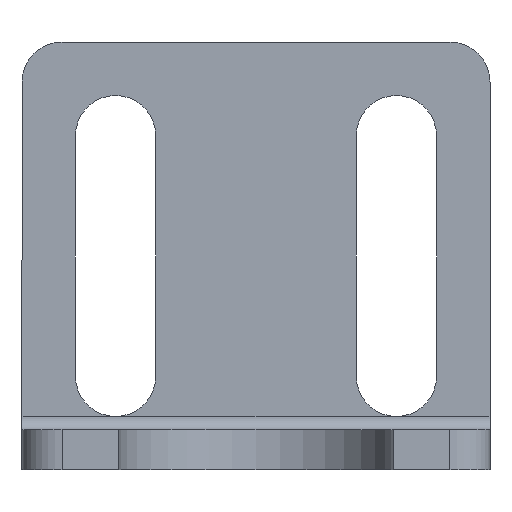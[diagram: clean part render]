
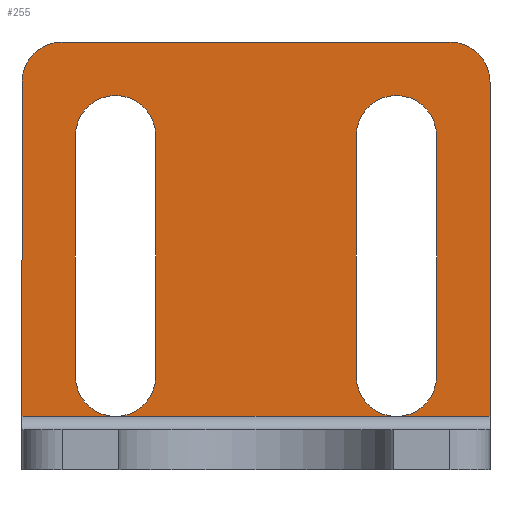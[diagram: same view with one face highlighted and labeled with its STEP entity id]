
A CAD part, front view. The second image highlights one B-rep face of the part: STEP entity #255.
In plain terms, the highlighted planar face has unit normal (0, -1, 0).
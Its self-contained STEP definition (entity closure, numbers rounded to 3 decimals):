
#73=CARTESIAN_POINT('',(14.5,-3.0,32.0));
#74=VERTEX_POINT('',#73);
#75=CARTESIAN_POINT('',(17.5,-3.0,29.0));
#76=VERTEX_POINT('',#75);
#77=CARTESIAN_POINT('',(14.5,-3.0,29.0));
#78=DIRECTION('',(0.0,1.0,0.0));
#79=DIRECTION('',(0.707,0.0,0.707));
#80=AXIS2_PLACEMENT_3D('',#77,#78,#79);
#81=CIRCLE('',#80,3.0);
#82=EDGE_CURVE('',#74,#76,#81,.T.);
#110=CARTESIAN_POINT('',(0.,-3.0,16.0));
#111=DIRECTION('',(0.0,1.0,0.0));
#112=DIRECTION('',(0.0,0.0,1.0));
#113=AXIS2_PLACEMENT_3D('',#110,#111,#112);
#114=PLANE('',#113);
#115=ORIENTED_EDGE('',*,*,#82,.F.);
#116=CARTESIAN_POINT('',(-14.5,-3.0,32.));
#117=VERTEX_POINT('',#116);
#118=CARTESIAN_POINT('',(-14.5,-3.0,32.));
#119=DIRECTION('',(1.0,0.0,0.0));
#120=VECTOR('',#119,29.);
#121=LINE('',#118,#120);
#122=EDGE_CURVE('',#117,#74,#121,.T.);
#123=ORIENTED_EDGE('',*,*,#122,.F.);
#124=CARTESIAN_POINT('',(-17.5,-3.0,29.));
#125=VERTEX_POINT('',#124);
#126=CARTESIAN_POINT('',(-14.5,-3.,29.));
#127=DIRECTION('',(0.0,1.0,0.0));
#128=DIRECTION('',(-0.707,0.0,0.707));
#129=AXIS2_PLACEMENT_3D('',#126,#127,#128);
#130=CIRCLE('',#129,3.0);
#131=EDGE_CURVE('',#125,#117,#130,.T.);
#132=ORIENTED_EDGE('',*,*,#131,.F.);
#133=CARTESIAN_POINT('',(-17.5,-3.0,4.0));
#134=VERTEX_POINT('',#133);
#135=CARTESIAN_POINT('',(-17.5,-3.0,4.0));
#136=DIRECTION('',(0.0,0.0,1.0));
#137=VECTOR('',#136,25.);
#138=LINE('',#135,#137);
#139=EDGE_CURVE('',#134,#125,#138,.T.);
#140=ORIENTED_EDGE('',*,*,#139,.F.);
#141=CARTESIAN_POINT('',(-10.5,-3.0,4.0));
#142=VERTEX_POINT('',#141);
#143=CARTESIAN_POINT('',(-10.5,-3.0,4.0));
#144=DIRECTION('',(-1.0,0.0,0.0));
#145=VECTOR('',#144,7.);
#146=LINE('',#143,#145);
#147=EDGE_CURVE('',#142,#134,#146,.T.);
#148=ORIENTED_EDGE('',*,*,#147,.F.);
#149=CARTESIAN_POINT('',(-13.5,-3.0,7.));
#150=VERTEX_POINT('',#149);
#151=CARTESIAN_POINT('',(-10.5,-3.0,7.));
#152=DIRECTION('',(0.0,1.0,0.0));
#153=DIRECTION('',(1.0,0.0,0.0));
#154=AXIS2_PLACEMENT_3D('',#151,#152,#153);
#155=CIRCLE('',#154,3.);
#156=EDGE_CURVE('',#142,#150,#155,.T.);
#157=ORIENTED_EDGE('',*,*,#156,.T.);
#158=CARTESIAN_POINT('',(-13.5,-3.0,25.));
#159=VERTEX_POINT('',#158);
#160=CARTESIAN_POINT('',(-13.5,-3.0,7.));
#161=DIRECTION('',(0.0,0.0,1.0));
#162=VECTOR('',#161,18.);
#163=LINE('',#160,#162);
#164=EDGE_CURVE('',#150,#159,#163,.T.);
#165=ORIENTED_EDGE('',*,*,#164,.T.);
#166=CARTESIAN_POINT('',(-7.5,-3.0,25.));
#167=VERTEX_POINT('',#166);
#168=CARTESIAN_POINT('',(-10.5,-3.0,25.));
#169=DIRECTION('',(0.0,1.0,0.0));
#170=DIRECTION('',(-1.0,0.0,0.0));
#171=AXIS2_PLACEMENT_3D('',#168,#169,#170);
#172=CIRCLE('',#171,3.);
#173=EDGE_CURVE('',#159,#167,#172,.T.);
#174=ORIENTED_EDGE('',*,*,#173,.T.);
#175=CARTESIAN_POINT('',(-7.5,-3.0,7.));
#176=VERTEX_POINT('',#175);
#177=CARTESIAN_POINT('',(-7.5,-3.0,25.));
#178=DIRECTION('',(0.0,0.0,-1.0));
#179=VECTOR('',#178,18.0);
#180=LINE('',#177,#179);
#181=EDGE_CURVE('',#167,#176,#180,.T.);
#182=ORIENTED_EDGE('',*,*,#181,.T.);
#183=CARTESIAN_POINT('',(-10.5,-3.0,7.));
#184=DIRECTION('',(0.0,1.0,0.0));
#185=DIRECTION('',(1.0,0.0,0.0));
#186=AXIS2_PLACEMENT_3D('',#183,#184,#185);
#187=CIRCLE('',#186,3.);
#188=EDGE_CURVE('',#176,#142,#187,.T.);
#189=ORIENTED_EDGE('',*,*,#188,.T.);
#190=CARTESIAN_POINT('',(10.5,-3.0,4.0));
#191=VERTEX_POINT('',#190);
#192=CARTESIAN_POINT('',(10.5,-3.0,4.0));
#193=DIRECTION('',(-1.0,0.0,0.0));
#194=VECTOR('',#193,21.);
#195=LINE('',#192,#194);
#196=EDGE_CURVE('',#191,#142,#195,.T.);
#197=ORIENTED_EDGE('',*,*,#196,.F.);
#198=CARTESIAN_POINT('',(7.5,-3.0,7.));
#199=VERTEX_POINT('',#198);
#200=CARTESIAN_POINT('',(10.5,-3.0,7.));
#201=DIRECTION('',(0.0,1.0,0.0));
#202=DIRECTION('',(-1.0,0.0,0.0));
#203=AXIS2_PLACEMENT_3D('',#200,#201,#202);
#204=CIRCLE('',#203,3.);
#205=EDGE_CURVE('',#191,#199,#204,.T.);
#206=ORIENTED_EDGE('',*,*,#205,.T.);
#207=CARTESIAN_POINT('',(7.5,-3.0,25.));
#208=VERTEX_POINT('',#207);
#209=CARTESIAN_POINT('',(7.5,-3.0,7.));
#210=DIRECTION('',(0.0,0.0,1.0));
#211=VECTOR('',#210,18.0);
#212=LINE('',#209,#211);
#213=EDGE_CURVE('',#199,#208,#212,.T.);
#214=ORIENTED_EDGE('',*,*,#213,.T.);
#215=CARTESIAN_POINT('',(13.5,-3.0,25.));
#216=VERTEX_POINT('',#215);
#217=CARTESIAN_POINT('',(10.5,-3.0,25.));
#218=DIRECTION('',(0.0,1.0,0.0));
#219=DIRECTION('',(1.0,0.0,0.0));
#220=AXIS2_PLACEMENT_3D('',#217,#218,#219);
#221=CIRCLE('',#220,3.);
#222=EDGE_CURVE('',#208,#216,#221,.T.);
#223=ORIENTED_EDGE('',*,*,#222,.T.);
#224=CARTESIAN_POINT('',(13.5,-3.0,7.));
#225=VERTEX_POINT('',#224);
#226=CARTESIAN_POINT('',(13.5,-3.0,25.));
#227=DIRECTION('',(0.0,0.0,-1.0));
#228=VECTOR('',#227,18.0);
#229=LINE('',#226,#228);
#230=EDGE_CURVE('',#216,#225,#229,.T.);
#231=ORIENTED_EDGE('',*,*,#230,.T.);
#232=CARTESIAN_POINT('',(10.5,-3.0,7.));
#233=DIRECTION('',(0.0,1.0,0.0));
#234=DIRECTION('',(-1.0,0.0,0.0));
#235=AXIS2_PLACEMENT_3D('',#232,#233,#234);
#236=CIRCLE('',#235,3.);
#237=EDGE_CURVE('',#225,#191,#236,.T.);
#238=ORIENTED_EDGE('',*,*,#237,.T.);
#239=CARTESIAN_POINT('',(17.5,-3.0,4.0));
#240=VERTEX_POINT('',#239);
#241=CARTESIAN_POINT('',(17.5,-3.0,4.0));
#242=DIRECTION('',(-1.0,0.0,0.0));
#243=VECTOR('',#242,7.);
#244=LINE('',#241,#243);
#245=EDGE_CURVE('',#240,#191,#244,.T.);
#246=ORIENTED_EDGE('',*,*,#245,.F.);
#247=CARTESIAN_POINT('',(17.5,-3.0,29.0));
#248=DIRECTION('',(0.0,0.0,-1.0));
#249=VECTOR('',#248,25.0);
#250=LINE('',#247,#249);
#251=EDGE_CURVE('',#76,#240,#250,.T.);
#252=ORIENTED_EDGE('',*,*,#251,.F.);
#253=EDGE_LOOP('',(#115,#123,#132,#140,#148,#157,#165,#174,#182,#189,#197,#206,#214,#223,#231,#238,#246,#252));
#254=FACE_OUTER_BOUND('',#253,.T.);
#255=ADVANCED_FACE('',(#254),#114,.F.);
